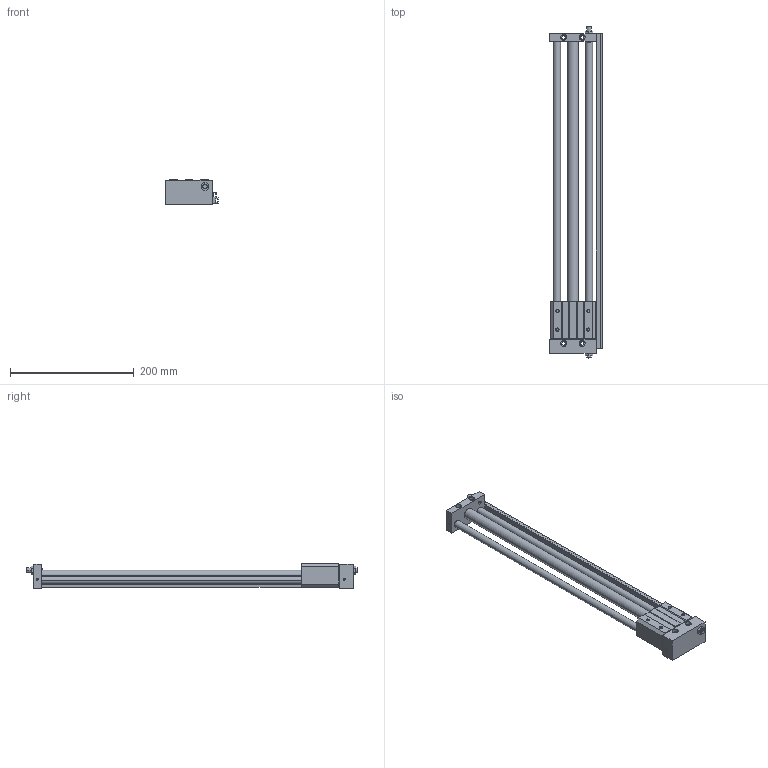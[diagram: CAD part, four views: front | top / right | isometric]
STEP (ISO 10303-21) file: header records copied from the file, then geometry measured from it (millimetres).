
FILE_DESCRIPTION((''),'2;1');
FILE_NAME('C:\Documents and Settings\Administrator\桌面\GYS\GYS15\GYSR15X420.stp','2012-03-05T10:52:14',('Administrator'),(''),'Autodesk Inventor 8','Autodesk Inventor 8','');
FILE_SCHEMA(('AUTOMOTIVE_DESIGN { 1 0 10303 214 1 1 1 1 }'));
Length unit declared in the file: millimetre
Products named in the file (3): GYSR15X420; GYS15X420; GYS15160X420
Assembly tree (2 placements, depth 2):
  GYSR15X420
    GYS15X420
    GYS15160X420
Bounding box: 85 x 537 x 40 mm (x, y, z)
Volume: 505482.7 mm3; surface area: 135714.3 mm2
Topology: 2 solids, 2 shells, 201 faces, 494 edges, 320 vertices
Faces by surface type: plane 107, cylinder 60, cone 28, bspline 6
Entity records: 6100 total; most frequent: CARTESIAN_POINT 1094, DIRECTION 1058, ORIENTED_EDGE 988, EDGE_CURVE 494, AXIS2_PLACEMENT_3D 364, VECTOR 330, LINE 330, VERTEX_POINT 320
